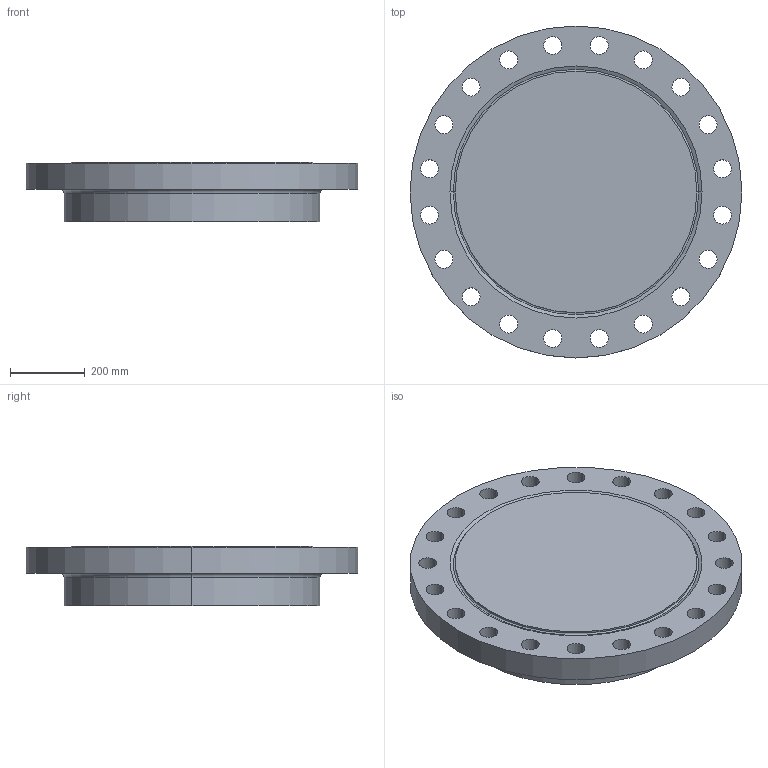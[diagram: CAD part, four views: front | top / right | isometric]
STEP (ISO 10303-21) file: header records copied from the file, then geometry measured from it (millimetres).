
FILE_DESCRIPTION (( 'STEP AP214' ), '1' );
FILE_NAME ('PN40 DN600 Type 21(i) - Type H Face.STEP', '2018-12-29T04:39:21', ( '' ), ( '' ), 'SwSTEP 2.0', 'SolidWorks 2019', '' );
FILE_SCHEMA (( 'AUTOMOTIVE_DESIGN' ));
Length unit declared in the file: millimetre
Products named in the file (1): PN40 DN600 Type 21(i) - Type H Face
Bounding box: 890 x 890 x 160 mm (x, y, z)
Volume: 73921056.6 mm3; surface area: 1767202.9 mm2
Topology: 1 solids, 1 shells, 56 faces, 150 edges, 98 vertices
Faces by surface type: cylinder 46, torus 4, plane 4, cone 2
Entity records: 1922 total; most frequent: DIRECTION 366, CARTESIAN_POINT 305, ORIENTED_EDGE 300, AXIS2_PLACEMENT_3D 159, EDGE_CURVE 150, CIRCLE 102, VERTEX_POINT 98, EDGE_LOOP 98
